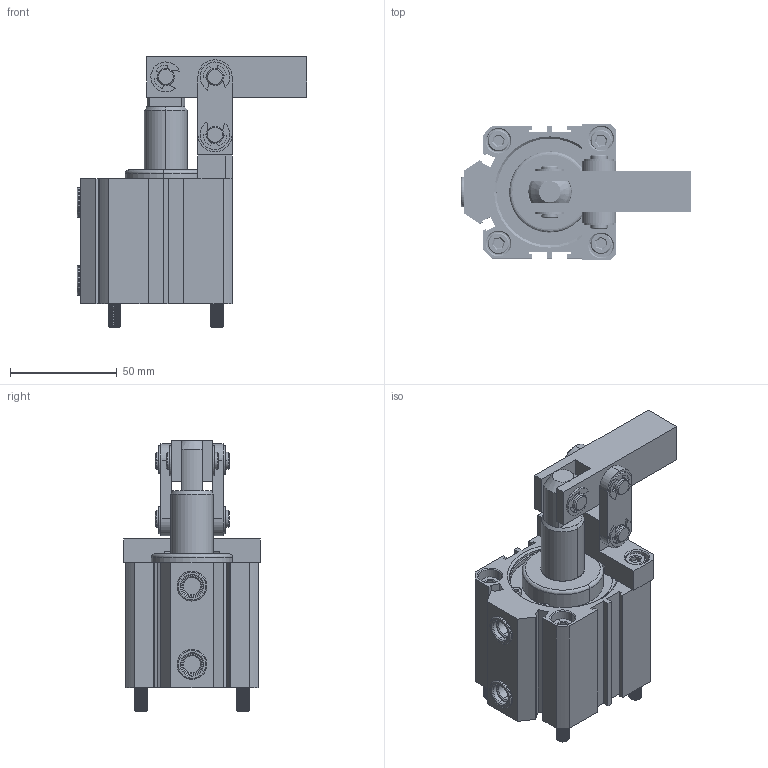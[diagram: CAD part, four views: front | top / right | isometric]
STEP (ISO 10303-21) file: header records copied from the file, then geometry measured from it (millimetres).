
FILE_DESCRIPTION(('FreeCAD Model'),'2;1');
FILE_NAME('Open CASCADE Shape Model','2021-08-17T17:29:45',('Author'),( ''),'Open CASCADE STEP processor 7.4','FreeCAD','Unknown');
FILE_SCHEMA(('AUTOMOTIVE_DESIGN { 1 0 10303 214 1 1 1 1 }'));
Length unit declared in the file: millimetre
Products named in the file (16): PLP-50; DESETEC001; DESETEC002; DESETEC003; DESETEC004; DESETEC005; DESETEC007; DESETEC008; DESETEC009; DESETEC011; DESETEC012; DESETEC013; DESETEC014; DESETEC018; DESETEC019; DESETEC021
Assembly tree (26 placements, depth 2):
  PLP-50
    DESETEC001  x2
    DESETEC002  x2
    DESETEC003  x6
    DESETEC004  x2
    DESETEC005
    DESETEC007
    DESETEC008
    DESETEC009  x2
    DESETEC011  x2
    DESETEC012  x2
    DESETEC013
    DESETEC014
    DESETEC018
    DESETEC019
    DESETEC021
Bounding box: 107.5 x 64 x 126.6 mm (x, y, z)
Volume: 208196.4 mm3; surface area: 97356 mm2
Topology: 26 solids, 26 shells, 1139 faces, 2935 edges, 1901 vertices
Faces by surface type: cylinder 689, plane 287, cone 92, torus 48, bspline 23
Entity records: 77227 total; most frequent: CARTESIAN_POINT 41728, DIRECTION 6169, ORIENTED_EDGE 3680, PCURVE 3680, DEFINITIONAL_REPRESENTATION 3680, LINE 3499, VECTOR 3499, EDGE_CURVE 1840
